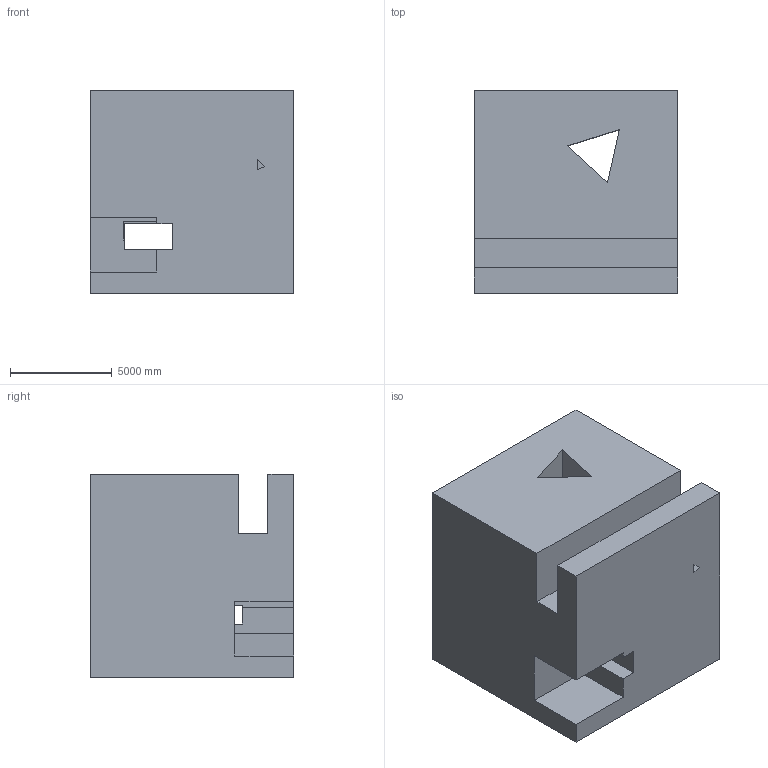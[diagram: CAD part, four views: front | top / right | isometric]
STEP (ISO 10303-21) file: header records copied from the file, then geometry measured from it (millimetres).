
FILE_DESCRIPTION (( 'STEP AP203' ), '1' );
FILE_NAME ('53.STEP', '2022-08-30T14:13:16', ( 'user' ), ( '' ), 'SwSTEP 2.0', 'SolidWorks 2021', '' );
FILE_SCHEMA (( 'CONFIG_CONTROL_DESIGN' ));
Length unit declared in the file: centimetre
Products named in the file (1): 53
Bounding box: 10000 x 10000 x 10000 mm (x, y, z)
Volume: 872669341080.7 mm3; surface area: 813171767.9 mm2
Topology: 1 solids, 1 shells, 33 faces, 96 edges, 64 vertices
Faces by surface type: plane 33
Entity records: 1159 total; most frequent: CARTESIAN_POINT 194, ORIENTED_EDGE 192, DIRECTION 164, VECTOR 96, EDGE_CURVE 96, LINE 96, VERTEX_POINT 64, EDGE_LOOP 38
